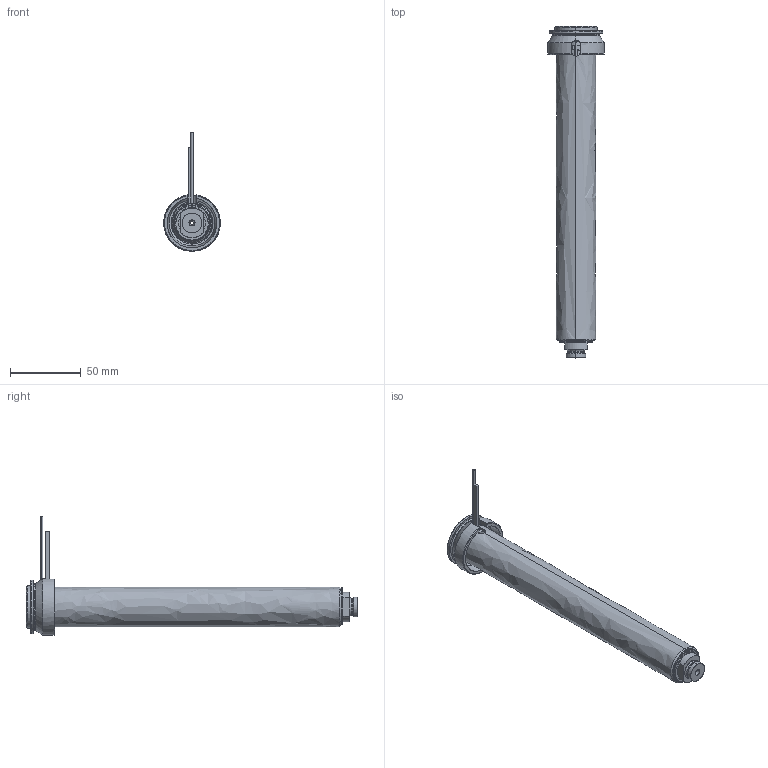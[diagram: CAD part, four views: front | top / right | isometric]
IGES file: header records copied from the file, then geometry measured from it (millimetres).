
Start section: SolidWorks IGES file using analytic representation for surfaces
Global section: file name: C:\Documents and Settings\ws-20\Desktop\TEMPORANEA\UGBE4005-M-A-5 [Ød-2.5 P-0 ØC-10].IGS; native system: SolidWorks 2012; preprocessor: SolidWorks 2012; author: ws-20; date: 120306.141206; units: millimetre
Bounding box: 40 x 234.25 x 83.65 mm (x, y, z)
Surface area: 68392.8 mm2 (no closed solid volume)
Topology: 0 solids, 0 shells, 103 faces, 1697 edges, 1697 vertices
Faces by surface type: revolution 60, bspline 43
